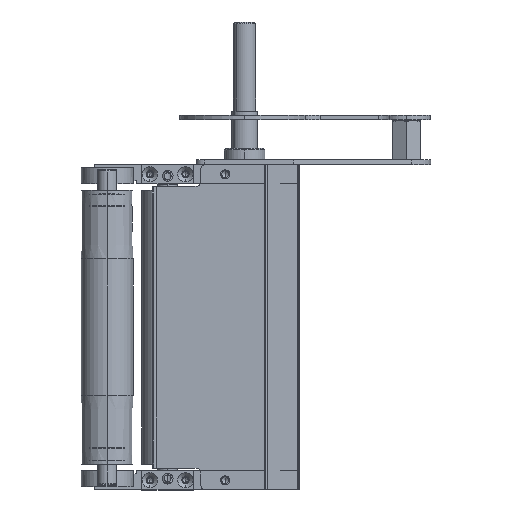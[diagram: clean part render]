
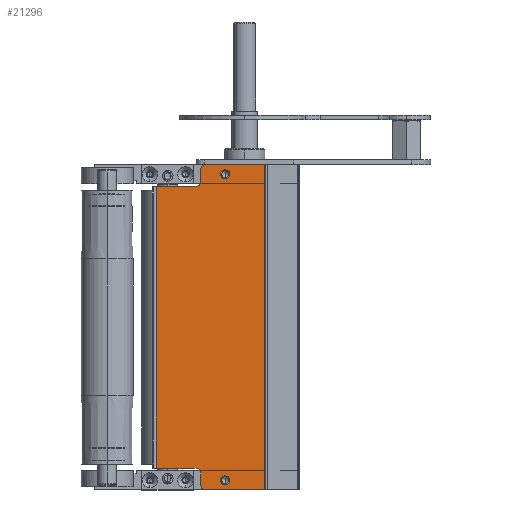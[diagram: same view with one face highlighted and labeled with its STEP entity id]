
A CAD part, left-side view. The second image highlights one B-rep face of the part: STEP entity #21296.
In plain terms, the highlighted planar face has unit normal (-1, 0, 0) as drawn and (1, 0, 0) by its records, which use the part's own axes.
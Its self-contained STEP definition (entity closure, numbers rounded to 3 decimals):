
#62 = EDGE_CURVE ( 'NONE', #1955, #20099, #3083, .T. ) ;
#421 = VERTEX_POINT ( 'NONE', #13397 ) ;
#517 = FACE_BOUND ( 'NONE', #13485, .T. ) ;
#608 = DIRECTION ( 'NONE',  ( -1., 0., 0. ) ) ;
#943 = DIRECTION ( 'NONE',  ( 0., -1., 0. ) ) ;
#1088 = CIRCLE ( 'NONE', #12962, 2.75 ) ;
#1139 = CARTESIAN_POINT ( 'NONE',  ( 51.5, 59.5, -3. ) ) ;
#1310 = EDGE_CURVE ( 'NONE', #13369, #20099, #20740, .T. ) ;
#1391 = EDGE_CURVE ( 'NONE', #22607, #10778, #1088, .T. ) ;
#1414 = EDGE_CURVE ( 'NONE', #7931, #3300, #13531, .T. ) ;
#1955 = VERTEX_POINT ( 'NONE', #1139 ) ;
#2250 = DIRECTION ( 'NONE',  ( 0., 1., 0. ) ) ;
#2318 = CARTESIAN_POINT ( 'NONE',  ( 51.5, 87., -187.5 ) ) ;
#2492 = DIRECTION ( 'NONE',  ( 1., 0., 0. ) ) ;
#2580 = LINE ( 'NONE', #20707, #16453 ) ;
#2710 = VERTEX_POINT ( 'NONE', #9234 ) ;
#2720 = EDGE_CURVE ( 'NONE', #14509, #9241, #4173, .T. ) ;
#2866 = ORIENTED_EDGE ( 'NONE', *, *, #1391, .F. ) ;
#2943 = DIRECTION ( 'NONE',  ( 1., 0., 0. ) ) ;
#3049 = VERTEX_POINT ( 'NONE', #16906 ) ;
#3083 = LINE ( 'NONE', #13101, #6992 ) ;
#3193 = EDGE_CURVE ( 'NONE', #3722, #12508, #15961, .T. ) ;
#3300 = VERTEX_POINT ( 'NONE', #10626 ) ;
#3317 = ORIENTED_EDGE ( 'NONE', *, *, #12464, .F. ) ;
#3348 = CARTESIAN_POINT ( 'NONE',  ( 51.5, 19.793, -385.938 ) ) ;
#3722 = VERTEX_POINT ( 'NONE', #2318 ) ;
#3734 = DIRECTION ( 'NONE',  ( 0., 0., 1. ) ) ;
#4038 = ORIENTED_EDGE ( 'NONE', *, *, #1310, .T. ) ;
#4173 = LINE ( 'NONE', #7143, #13906 ) ;
#4350 = ORIENTED_EDGE ( 'NONE', *, *, #2720, .F. ) ;
#4653 = CARTESIAN_POINT ( 'NONE',  ( 51.5, 47.25, -6. ) ) ;
#4791 = CIRCLE ( 'NONE', #15160, 2.75 ) ;
#4907 = EDGE_CURVE ( 'NONE', #7979, #14509, #7497, .T. ) ;
#5270 = CARTESIAN_POINT ( 'NONE',  ( 51.5, 56.5, -201. ) ) ;
#5645 = CARTESIAN_POINT ( 'NONE',  ( 51.5, 19.793, -201. ) ) ;
#6004 = CARTESIAN_POINT ( 'NONE',  ( 51.5, 62.5, -13.5 ) ) ;
#6080 = CARTESIAN_POINT ( 'NONE',  ( 51.5, 62.5, -190.5 ) ) ;
#6446 = CARTESIAN_POINT ( 'NONE',  ( 51.5, 19.793, 0. ) ) ;
#6544 = ORIENTED_EDGE ( 'NONE', *, *, #4907, .F. ) ;
#6609 = LINE ( 'NONE', #6446, #15854 ) ;
#6734 = ORIENTED_EDGE ( 'NONE', *, *, #7407, .F. ) ;
#6992 = VECTOR ( 'NONE', #12268, 1000. ) ;
#7105 = ORIENTED_EDGE ( 'NONE', *, *, #10936, .F. ) ;
#7143 = CARTESIAN_POINT ( 'NONE',  ( 51.5, 20.414, -385.938 ) ) ;
#7278 = DIRECTION ( 'NONE',  ( -1., 0., 0. ) ) ;
#7407 = EDGE_CURVE ( 'NONE', #13369, #12508, #2580, .T. ) ;
#7434 = AXIS2_PLACEMENT_3D ( 'NONE', #19070, #20294, #22250 ) ;
#7479 = DIRECTION ( 'NONE',  ( 1., 0., 0. ) ) ;
#7497 = LINE ( 'NONE', #5645, #15541 ) ;
#7862 = CIRCLE ( 'NONE', #7434, 3. ) ;
#7931 = VERTEX_POINT ( 'NONE', #13787 ) ;
#7979 = VERTEX_POINT ( 'NONE', #5270 ) ;
#8164 = DIRECTION ( 'NONE',  ( 0., -1., 0. ) ) ;
#8423 = ORIENTED_EDGE ( 'NONE', *, *, #3193, .T. ) ;
#8588 = DIRECTION ( 'NONE',  ( 0., 1., 0. ) ) ;
#8707 = EDGE_LOOP ( 'NONE', ( #6544, #22399, #10259, #10035, #3317, #8423, #6734, #4038, #17731, #19017, #7105, #4350 ) ) ;
#8763 = EDGE_CURVE ( 'NONE', #421, #3049, #18535, .T. ) ;
#9234 = CARTESIAN_POINT ( 'NONE',  ( 51.5, 56.5, 0. ) ) ;
#9241 = VERTEX_POINT ( 'NONE', #11186 ) ;
#10035 = ORIENTED_EDGE ( 'NONE', *, *, #1414, .T. ) ;
#10259 = ORIENTED_EDGE ( 'NONE', *, *, #11297, .F. ) ;
#10441 = CARTESIAN_POINT ( 'NONE',  ( 51.5, 59.5, -198. ) ) ;
#10626 = CARTESIAN_POINT ( 'NONE',  ( 51.5, 62.5, -187.5 ) ) ;
#10680 = DIRECTION ( 'NONE',  ( 0., 1., 0. ) ) ;
#10778 = VERTEX_POINT ( 'NONE', #17777 ) ;
#10936 = EDGE_CURVE ( 'NONE', #9241, #2710, #6609, .T. ) ;
#10950 = FACE_BOUND ( 'NONE', #11724, .T. ) ;
#11186 = CARTESIAN_POINT ( 'NONE',  ( 51.5, 20.414, 0. ) ) ;
#11297 = EDGE_CURVE ( 'NONE', #7931, #18076, #22014, .T. ) ;
#11607 = LINE ( 'NONE', #14814, #19558 ) ;
#11703 = AXIS2_PLACEMENT_3D ( 'NONE', #3348, #17948, #2250 ) ;
#11724 = EDGE_LOOP ( 'NONE', ( #12960, #19334 ) ) ;
#11788 = EDGE_CURVE ( 'NONE', #1955, #2710, #7862, .T. ) ;
#11992 = DIRECTION ( 'NONE',  ( 0., 1., 0. ) ) ;
#12152 = CARTESIAN_POINT ( 'NONE',  ( 51.5, 59.5, -385.938 ) ) ;
#12162 = FACE_OUTER_BOUND ( 'NONE', #8707, .T. ) ;
#12268 = DIRECTION ( 'NONE',  ( 0., 0., -1. ) ) ;
#12304 = CARTESIAN_POINT ( 'NONE',  ( 51.5, 20.414, -201. ) ) ;
#12464 = EDGE_CURVE ( 'NONE', #3722, #3300, #11607, .T. ) ;
#12508 = VERTEX_POINT ( 'NONE', #22783 ) ;
#12908 = EDGE_CURVE ( 'NONE', #3049, #421, #4791, .T. ) ;
#12960 = ORIENTED_EDGE ( 'NONE', *, *, #12908, .F. ) ;
#12962 = AXIS2_PLACEMENT_3D ( 'NONE', #21351, #2943, #8588 ) ;
#13101 = CARTESIAN_POINT ( 'NONE',  ( 51.5, 59.5, -385.938 ) ) ;
#13369 = VERTEX_POINT ( 'NONE', #6004 ) ;
#13397 = CARTESIAN_POINT ( 'NONE',  ( 51.5, 47.25, -195. ) ) ;
#13485 = EDGE_LOOP ( 'NONE', ( #14441, #2866 ) ) ;
#13531 = CIRCLE ( 'NONE', #15337, 3. ) ;
#13787 = CARTESIAN_POINT ( 'NONE',  ( 51.5, 59.5, -190.5 ) ) ;
#13906 = VECTOR ( 'NONE', #3734, 1000. ) ;
#14104 = DIRECTION ( 'NONE',  ( 1., 0., 0. ) ) ;
#14428 = AXIS2_PLACEMENT_3D ( 'NONE', #16686, #2492, #11992 ) ;
#14441 = ORIENTED_EDGE ( 'NONE', *, *, #21971, .F. ) ;
#14509 = VERTEX_POINT ( 'NONE', #12304 ) ;
#14566 = CARTESIAN_POINT ( 'NONE',  ( 51.5, 59.5, -10.5 ) ) ;
#14814 = CARTESIAN_POINT ( 'NONE',  ( 51.5, 19.793, -187.5 ) ) ;
#15049 = CARTESIAN_POINT ( 'NONE',  ( 51.5, 44.5, -195. ) ) ;
#15139 = DIRECTION ( 'NONE',  ( 0., 0., -1. ) ) ;
#15148 = DIRECTION ( 'NONE',  ( 0., 1., 0. ) ) ;
#15160 = AXIS2_PLACEMENT_3D ( 'NONE', #15049, #7479, #18092 ) ;
#15329 = EDGE_CURVE ( 'NONE', #7979, #18076, #21453, .T. ) ;
#15337 = AXIS2_PLACEMENT_3D ( 'NONE', #6080, #608, #10680 ) ;
#15541 = VECTOR ( 'NONE', #8164, 1000. ) ;
#15622 = CARTESIAN_POINT ( 'NONE',  ( 51.5, 87., -385.938 ) ) ;
#15670 = PLANE ( 'NONE',  #11703 ) ;
#15854 = VECTOR ( 'NONE', #15148, 1000. ) ;
#15894 = CARTESIAN_POINT ( 'NONE',  ( 51.5, 44.5, -195. ) ) ;
#15961 = LINE ( 'NONE', #15622, #22044 ) ;
#16453 = VECTOR ( 'NONE', #22022, 1000. ) ;
#16686 = CARTESIAN_POINT ( 'NONE',  ( 51.5, 44.5, -6. ) ) ;
#16906 = CARTESIAN_POINT ( 'NONE',  ( 51.5, 41.75, -195. ) ) ;
#17205 = DIRECTION ( 'NONE',  ( 0., 1., 0. ) ) ;
#17250 = DIRECTION ( 'NONE',  ( 0., 0., 1. ) ) ;
#17672 = DIRECTION ( 'NONE',  ( 0., 1., 0. ) ) ;
#17731 = ORIENTED_EDGE ( 'NONE', *, *, #62, .F. ) ;
#17777 = CARTESIAN_POINT ( 'NONE',  ( 51.5, 41.75, -6. ) ) ;
#17878 = VECTOR ( 'NONE', #15139, 1000. ) ;
#17948 = DIRECTION ( 'NONE',  ( 1., 0., 0. ) ) ;
#18039 = CARTESIAN_POINT ( 'NONE',  ( 51.5, 56.5, -198. ) ) ;
#18076 = VERTEX_POINT ( 'NONE', #10441 ) ;
#18092 = DIRECTION ( 'NONE',  ( 0., 1., 0. ) ) ;
#18535 = CIRCLE ( 'NONE', #19298, 2.75 ) ;
#19017 = ORIENTED_EDGE ( 'NONE', *, *, #11788, .T. ) ;
#19070 = CARTESIAN_POINT ( 'NONE',  ( 51.5, 56.5, -3. ) ) ;
#19298 = AXIS2_PLACEMENT_3D ( 'NONE', #15894, #14104, #17672 ) ;
#19334 = ORIENTED_EDGE ( 'NONE', *, *, #8763, .F. ) ;
#19558 = VECTOR ( 'NONE', #943, 1000. ) ;
#19635 = DIRECTION ( 'NONE',  ( 1., 0., 0. ) ) ;
#20099 = VERTEX_POINT ( 'NONE', #14566 ) ;
#20136 = DIRECTION ( 'NONE',  ( 0., 1., 0. ) ) ;
#20294 = DIRECTION ( 'NONE',  ( 1., 0., 0. ) ) ;
#20707 = CARTESIAN_POINT ( 'NONE',  ( 51.5, 19.793, -13.5 ) ) ;
#20740 = CIRCLE ( 'NONE', #22874, 3. ) ;
#21296 = ADVANCED_FACE ( 'NONE', ( #517, #10950, #12162 ), #15670, .T. ) ;
#21351 = CARTESIAN_POINT ( 'NONE',  ( 51.5, 44.5, -6. ) ) ;
#21431 = CARTESIAN_POINT ( 'NONE',  ( 51.5, 62.5, -10.5 ) ) ;
#21453 = CIRCLE ( 'NONE', #21863, 3. ) ;
#21863 = AXIS2_PLACEMENT_3D ( 'NONE', #18039, #19635, #20136 ) ;
#21971 = EDGE_CURVE ( 'NONE', #10778, #22607, #22901, .T. ) ;
#22014 = LINE ( 'NONE', #12152, #17878 ) ;
#22022 = DIRECTION ( 'NONE',  ( 0., 1., 0. ) ) ;
#22044 = VECTOR ( 'NONE', #17250, 1000. ) ;
#22250 = DIRECTION ( 'NONE',  ( 0., 1., 0. ) ) ;
#22399 = ORIENTED_EDGE ( 'NONE', *, *, #15329, .T. ) ;
#22607 = VERTEX_POINT ( 'NONE', #4653 ) ;
#22783 = CARTESIAN_POINT ( 'NONE',  ( 51.5, 87., -13.5 ) ) ;
#22874 = AXIS2_PLACEMENT_3D ( 'NONE', #21431, #7278, #17205 ) ;
#22901 = CIRCLE ( 'NONE', #14428, 2.75 ) ;
